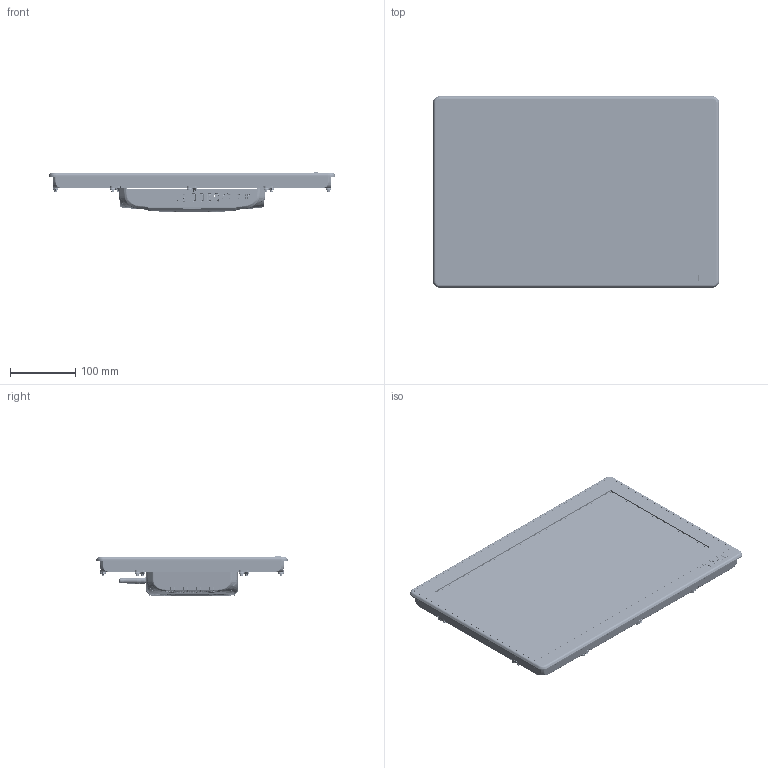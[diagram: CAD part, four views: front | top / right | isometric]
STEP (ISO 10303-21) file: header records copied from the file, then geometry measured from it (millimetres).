
FILE_DESCRIPTION (( 'STEP AP214' ), '1' );
FILE_NAME ('173.STEP', '2024-05-16T05:38:34', ( '' ), ( '' ), 'SwSTEP 2.0', 'SolidWorks 2018', '' );
FILE_SCHEMA (( 'AUTOMOTIVE_DESIGN' ));
Length unit declared in the file: millimetre
Products named in the file (1): 173
Bounding box: 440 x 294 x 60.96 mm (x, y, z)
Surface area: 782969.6 mm2 (no closed solid volume)
Topology: 0 solids, 831 shells, 15612 faces, 42530 edges, 27709 vertices
Faces by surface type: plane 7610, cylinder 4453, bspline 1851, torus 1185, sphere 323, cone 190
Full cylindrical faces by diameter (mm): 0.3 x3, 0.34 x2, 0.5 x18, 0.7 x18, 0.8 x18, 1 x6, 1.2 x1, 1.4 x4, 1.5 x4, 2 x2, 2.2 x6, 2.3 x2, 2.5 x1, 2.6 x4, 3 x1, 3.2 x22, 3.5 x3, 4 x6, 4.2 x12, 4.5 x14, 4.9 x2, 5.9 x1, 6 x2, 7.306 x4, 7.6 x1, 8.1 x1, 8.429 x4
Entity records: 777975 total; most frequent: CARTESIAN_POINT 242900, ORIENTED_EDGE 79152, DIRECTION 65577, EDGE_CURVE 41604, VERTEX_POINT 27574, AXIS2_PLACEMENT_3D 22069, LINE 21439, VECTOR 21439
